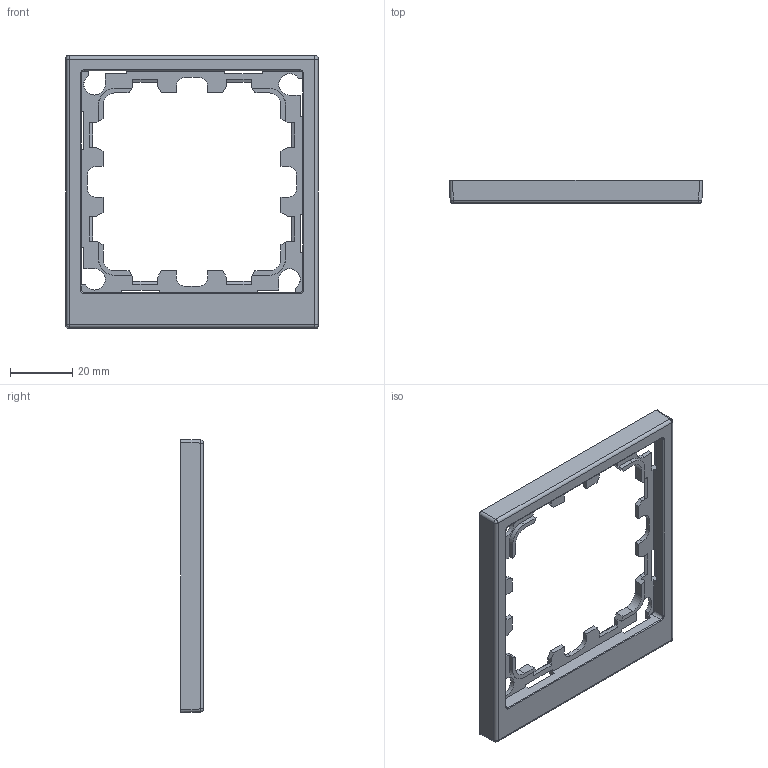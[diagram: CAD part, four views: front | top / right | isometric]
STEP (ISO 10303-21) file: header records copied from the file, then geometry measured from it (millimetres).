
FILE_DESCRIPTION (( 'STEP AP203' ), '1' );
FILE_NAME ('7000902.STEP', '2025-12-04T13:15:32', ( '' ), ( '' ), 'SwSTEP 2.0', 'SolidWorks 2022', '' );
FILE_SCHEMA (( 'CONFIG_CONTROL_DESIGN' ));
Length unit declared in the file: millimetre
Products named in the file (1): 7000902
Bounding box: 81 x 7.3 x 87.5 mm (x, y, z)
Volume: 9155.7 mm3; surface area: 13406.3 mm2
Topology: 1 solids, 1 shells, 221 faces, 676 edges, 444 vertices
Faces by surface type: plane 152, cylinder 32, cone 28, torus 4, sphere 4, bspline 1
Entity records: 7613 total; most frequent: CARTESIAN_POINT 1379, ORIENTED_EDGE 1352, DIRECTION 1228, EDGE_CURVE 676, VECTOR 546, LINE 546, VERTEX_POINT 444, AXIS2_PLACEMENT_3D 341
